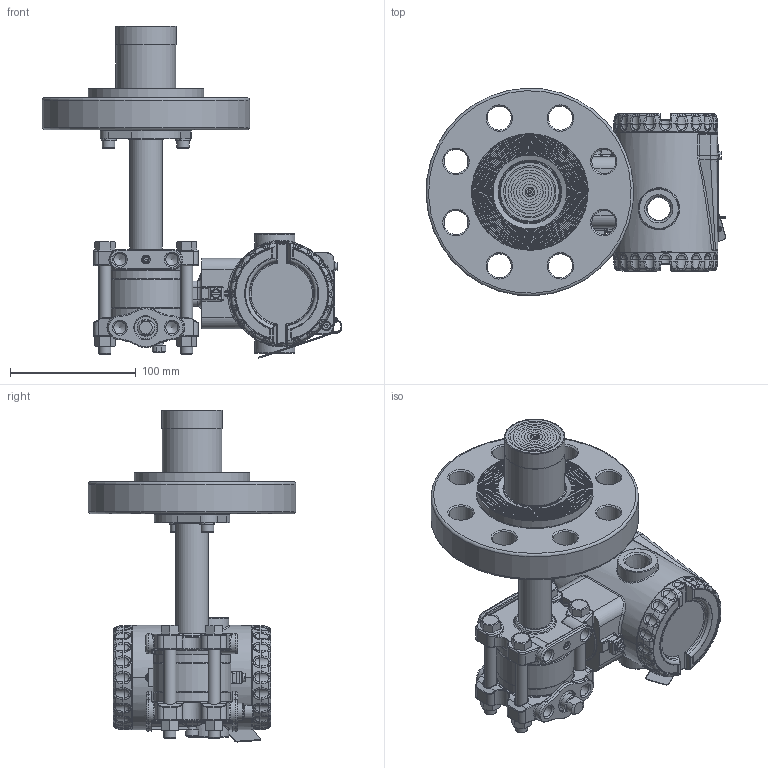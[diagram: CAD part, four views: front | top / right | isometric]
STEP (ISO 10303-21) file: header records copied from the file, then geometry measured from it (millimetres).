
FILE_DESCRIPTION(/* description */ (''),/* implementation_level */ '2;1');
FILE_NAME(/* name */ 'F:\Area\Desenvolvimento_2\Projects\Sensor\projetos\LD400-3d\dimensionais 3D clientes\LD400L\LD400L 2-600 RF ext 50 ref 1-4NPT purga acima.stp',/* time_stamp */ '2023-02-23T15:48:43-03:00',/* author */ ('inventor02'),/* organization */ (''),/* preprocessor_version */ 'ST-DEVELOPER v17',/* originating_system */ 'Autodesk Inventor 2019',/* authorisation */ '');
FILE_SCHEMA (('CONFIG_CONTROL_DESIGN'));
Products named in the file (41): LD30XL 2-600 RF ext 50 ref 1-4NPT purga acima; 204-0301-L-2 600 RF ext 50 purga acima; nivel fx3 com baixa diferencial 1-4NPT purga acima; involucro fx0-3 apos a usinagem final; flange diferencial std purga; 101-C-7484-01 flange selo nivel VR; 201-A-0504-tubo união teste 1; bujao 1-4NPT; Sangria; Porca 3-8 x 16 UNC; Paraf. 3-8 x 16 UNC; adaptação tubo x flanges 1-1-2 a 4pol; 101-B-0161-anel cortado do tubo - teste1; 101-B-0162-flange fixação tubo; ANSI B18.3.1M - M6x1 x 16; DIN 127 - A 6; flange 2 600 ext 50; 101-C-0126-10; 101-B-7700-01-50; 101-B-0168-11; Carcaça 400 com tampas e plaqueta sem letras; 101-D-0845-05 carcaça LD400 sem letras; 101-B-3614-03-tampa 400 sem letras; Tampa visor 400 montada sem letras; 101-B-3612-05 tampa visor 400 sem letras; 101-A-6107; oring 2034; 00034775-0; WHW_250; DIN 915 - M6 x 10; Chapa aterramento externo; 201-A-1771-02 inserto terra recartilhado; AS 1969 - ST4,2; ISO 1207 - M4 x 8; ANSI B18.3.1M - M4x0,7 x 8; Subconjunto plaqueta 400; plaqueta 400 em branco; Parafuso da Plaqueta; Rebite da Plaqueta; 096-A-0169-03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
Assembly tree (50 placements, depth 4):
  LD30XL 2-600 RF ext 50 ref 1-4NPT purga acima
    204-0301-L-2 600 RF ext 50 purga acima
      nivel fx3 com baixa diferencial 1-4NPT purga acima
        involucro fx0-3 apos a usinagem final
        flange diferencial std purga
        101-C-7484-01 flange selo nivel VR
        201-A-0504-tubo união teste 1
        DIN 915 - M6 x 10
        bujao 1-4NPT
        Sangria
        Porca 3-8 x 16 UNC  x4
        Paraf. 3-8 x 16 UNC  x4
      adaptação tubo x flanges 1-1-2 a 4pol
        101-B-0161-anel cortado do tubo - teste1
        101-B-0162-flange fixação tubo
        ANSI B18.3.1M - M6x1 x 16  x2
        DIN 127 - A 6  x2
      flange 2 600 ext 50
        101-C-0126-10
        101-B-7700-01-50
        101-B-0168-11
    Carcaça 400 com tampas e plaqueta sem letras
      101-D-0845-05 carcaça LD400 sem letras
      101-B-3614-03-tampa 400 sem letras
      Tampa visor 400 montada sem letras
        101-B-3612-05 tampa visor 400 sem letras
        101-A-6107
        oring 2034
        00034775-0
        WHW_250
      DIN 915 - M6 x 10
      Chapa aterramento externo
      201-A-1771-02 inserto terra recartilhado
      AS 1969 - ST4,2
      ISO 1207 - M4 x 8
      ANSI B18.3.1M - M4x0,7 x 8  x2
      Subconjunto plaqueta 400
        plaqueta 400 em branco
        Parafuso da Plaqueta
        Rebite da Plaqueta
        096-A-0169-03
        101-A-0502-01
Bounding box: 238.17 x 164.84 x 263.82 mm (x, y, z)
Volume: 1192017.7 mm3; surface area: 343366.5 mm2
Topology: 43 solids, 43 shells, 2791 faces, 6761 edges, 4060 vertices
Faces by surface type: plane 730, cylinder 668, bspline 604, torus 483, cone 230, sphere 76
Full cylindrical faces by diameter (mm): 2 x4, 2.1 x1, 2.2 x1, 2.459 x3, 2.5 x1, 2.7 x1, 2.8 x1, 3 x4, 3.242 x3, 3.5 x1, 3.571 x1, 4 x5, 4.3 x2, 4.4 x1, 4.917 x4, 5 x1, 5.5 x3, 6 x6, 6.1 x2, 6.2 x1, 6.647 x1, 7 x5, 7.6 x2, 7.798 x4, 8 x1, 9.525 x4, 9.728 x6, 10 x2, 10.5 x8, 10.719 x2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
Entity records: 99334 total; most frequent: CARTESIAN_POINT 37174, DIRECTION 12836, ORIENTED_EDGE 12762, EDGE_CURVE 6381, AXIS2_PLACEMENT_3D 5501, VERTEX_POINT 3866, CIRCLE 3197, EDGE_LOOP 2843
